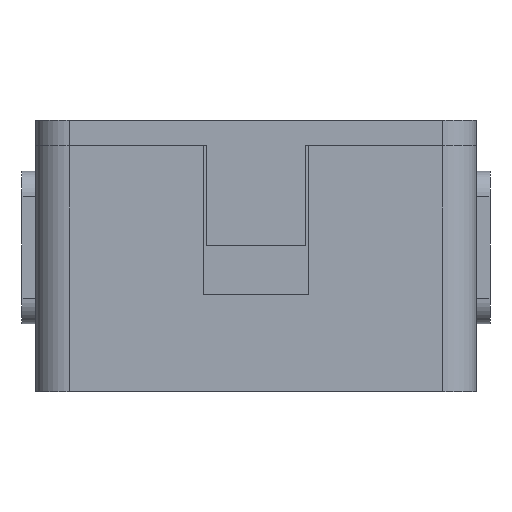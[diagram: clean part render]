
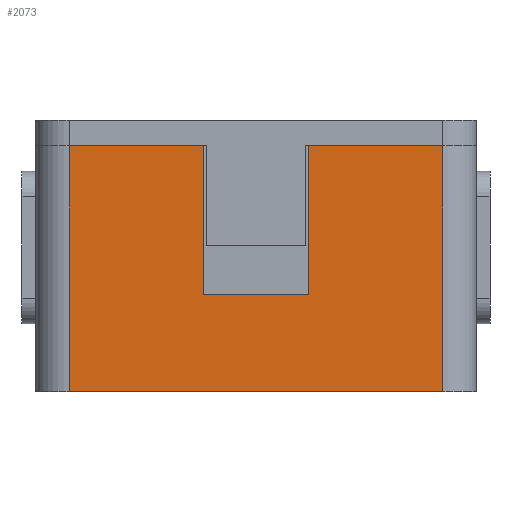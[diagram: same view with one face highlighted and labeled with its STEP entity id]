
A CAD part, left-side view. The second image highlights one B-rep face of the part: STEP entity #2073.
In plain terms, the highlighted planar face has unit normal (-1, 0, 0).
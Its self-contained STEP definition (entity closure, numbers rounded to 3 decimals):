
#82 = PLANE('',#83);
#83 = AXIS2_PLACEMENT_3D('',#84,#85,#86);
#84 = CARTESIAN_POINT('',(0.,0.,0.));
#85 = DIRECTION('',(0.,0.,1.));
#86 = DIRECTION('',(1.,0.,-0.));
#110 = CYLINDRICAL_SURFACE('',#111,4.);
#111 = AXIS2_PLACEMENT_3D('',#112,#113,#114);
#112 = CARTESIAN_POINT('',(-27.,-22.,0.));
#113 = DIRECTION('',(0.,0.,1.));
#114 = DIRECTION('',(0.,-1.,0.));
#138 = PLANE('',#139);
#139 = AXIS2_PLACEMENT_3D('',#140,#141,#142);
#140 = CARTESIAN_POINT('',(0.,0.,29.));
#141 = DIRECTION('',(0.,0.,1.));
#142 = DIRECTION('',(1.,0.,-0.));
#625 = VERTEX_POINT('',#626);
#626 = CARTESIAN_POINT('',(-31.,22.,0.));
#641 = CYLINDRICAL_SURFACE('',#642,4.);
#642 = AXIS2_PLACEMENT_3D('',#643,#644,#645);
#643 = CARTESIAN_POINT('',(-27.,22.,0.));
#644 = DIRECTION('',(0.,0.,1.));
#645 = DIRECTION('',(-0.,1.,0.));
#653 = EDGE_CURVE('',#625,#654,#656,.T.);
#654 = VERTEX_POINT('',#655);
#655 = CARTESIAN_POINT('',(-31.,-22.,0.));
#656 = SURFACE_CURVE('',#657,(#661,#668),.PCURVE_S1.);
#657 = LINE('',#658,#659);
#658 = CARTESIAN_POINT('',(-31.,26.,0.));
#659 = VECTOR('',#660,1.);
#660 = DIRECTION('',(0.,-1.,0.));
#661 = PCURVE('',#82,#662);
#662 = DEFINITIONAL_REPRESENTATION('',(#663),#667);
#663 = LINE('',#664,#665);
#664 = CARTESIAN_POINT('',(-31.,26.));
#665 = VECTOR('',#666,1.);
#666 = DIRECTION('',(0.,-1.));
#667 = ( GEOMETRIC_REPRESENTATION_CONTEXT(2) 
PARAMETRIC_REPRESENTATION_CONTEXT() REPRESENTATION_CONTEXT('2D SPACE',''
  ) );
#668 = PCURVE('',#669,#674);
#669 = PLANE('',#670);
#670 = AXIS2_PLACEMENT_3D('',#671,#672,#673);
#671 = CARTESIAN_POINT('',(-31.,26.,0.));
#672 = DIRECTION('',(1.,0.,-0.));
#673 = DIRECTION('',(0.,-1.,0.));
#674 = DEFINITIONAL_REPRESENTATION('',(#675),#679);
#675 = LINE('',#676,#677);
#676 = CARTESIAN_POINT('',(0.,0.));
#677 = VECTOR('',#678,1.);
#678 = DIRECTION('',(1.,0.));
#679 = ( GEOMETRIC_REPRESENTATION_CONTEXT(2) 
PARAMETRIC_REPRESENTATION_CONTEXT() REPRESENTATION_CONTEXT('2D SPACE',''
  ) );
#711 = EDGE_CURVE('',#654,#712,#714,.T.);
#712 = VERTEX_POINT('',#713);
#713 = CARTESIAN_POINT('',(-31.,-22.,29.));
#714 = SURFACE_CURVE('',#715,(#719,#726),.PCURVE_S1.);
#715 = LINE('',#716,#717);
#716 = CARTESIAN_POINT('',(-31.,-22.,0.));
#717 = VECTOR('',#718,1.);
#718 = DIRECTION('',(0.,0.,1.));
#719 = PCURVE('',#110,#720);
#720 = DEFINITIONAL_REPRESENTATION('',(#721),#725);
#721 = LINE('',#722,#723);
#722 = CARTESIAN_POINT('',(-1.571,0.));
#723 = VECTOR('',#724,1.);
#724 = DIRECTION('',(-0.,1.));
#725 = ( GEOMETRIC_REPRESENTATION_CONTEXT(2) 
PARAMETRIC_REPRESENTATION_CONTEXT() REPRESENTATION_CONTEXT('2D SPACE',''
  ) );
#726 = PCURVE('',#669,#727);
#727 = DEFINITIONAL_REPRESENTATION('',(#728),#732);
#728 = LINE('',#729,#730);
#729 = CARTESIAN_POINT('',(48.,0.));
#730 = VECTOR('',#731,1.);
#731 = DIRECTION('',(0.,-1.));
#732 = ( GEOMETRIC_REPRESENTATION_CONTEXT(2) 
PARAMETRIC_REPRESENTATION_CONTEXT() REPRESENTATION_CONTEXT('2D SPACE',''
  ) );
#926 = VERTEX_POINT('',#927);
#927 = CARTESIAN_POINT('',(-31.,-6.2,29.));
#941 = PLANE('',#942);
#942 = AXIS2_PLACEMENT_3D('',#943,#944,#945);
#943 = CARTESIAN_POINT('',(-34.,-6.2,11.4));
#944 = DIRECTION('',(0.,1.,0.));
#945 = DIRECTION('',(0.,0.,1.));
#952 = EDGE_CURVE('',#926,#712,#953,.T.);
#953 = SURFACE_CURVE('',#954,(#958,#965),.PCURVE_S1.);
#954 = LINE('',#955,#956);
#955 = CARTESIAN_POINT('',(-31.,26.,29.));
#956 = VECTOR('',#957,1.);
#957 = DIRECTION('',(0.,-1.,0.));
#958 = PCURVE('',#138,#959);
#959 = DEFINITIONAL_REPRESENTATION('',(#960),#964);
#960 = LINE('',#961,#962);
#961 = CARTESIAN_POINT('',(-31.,26.));
#962 = VECTOR('',#963,1.);
#963 = DIRECTION('',(0.,-1.));
#964 = ( GEOMETRIC_REPRESENTATION_CONTEXT(2) 
PARAMETRIC_REPRESENTATION_CONTEXT() REPRESENTATION_CONTEXT('2D SPACE',''
  ) );
#965 = PCURVE('',#669,#966);
#966 = DEFINITIONAL_REPRESENTATION('',(#967),#971);
#967 = LINE('',#968,#969);
#968 = CARTESIAN_POINT('',(0.,-29.));
#969 = VECTOR('',#970,1.);
#970 = DIRECTION('',(1.,0.));
#971 = ( GEOMETRIC_REPRESENTATION_CONTEXT(2) 
PARAMETRIC_REPRESENTATION_CONTEXT() REPRESENTATION_CONTEXT('2D SPACE',''
  ) );
#2073 = ADVANCED_FACE('',(#2074),#669,.F.);
#2074 = FACE_BOUND('',#2075,.F.);
#2075 = EDGE_LOOP('',(#2076,#2077,#2100,#2128,#2154,#2180,#2199,#2200));
#2076 = ORIENTED_EDGE('',*,*,#653,.F.);
#2077 = ORIENTED_EDGE('',*,*,#2078,.T.);
#2078 = EDGE_CURVE('',#625,#2079,#2081,.T.);
#2079 = VERTEX_POINT('',#2080);
#2080 = CARTESIAN_POINT('',(-31.,22.,29.));
#2081 = SURFACE_CURVE('',#2082,(#2086,#2093),.PCURVE_S1.);
#2082 = LINE('',#2083,#2084);
#2083 = CARTESIAN_POINT('',(-31.,22.,0.));
#2084 = VECTOR('',#2085,1.);
#2085 = DIRECTION('',(0.,0.,1.));
#2086 = PCURVE('',#669,#2087);
#2087 = DEFINITIONAL_REPRESENTATION('',(#2088),#2092);
#2088 = LINE('',#2089,#2090);
#2089 = CARTESIAN_POINT('',(4.,0.));
#2090 = VECTOR('',#2091,1.);
#2091 = DIRECTION('',(0.,-1.));
#2092 = ( GEOMETRIC_REPRESENTATION_CONTEXT(2) 
PARAMETRIC_REPRESENTATION_CONTEXT() REPRESENTATION_CONTEXT('2D SPACE',''
  ) );
#2093 = PCURVE('',#641,#2094);
#2094 = DEFINITIONAL_REPRESENTATION('',(#2095),#2099);
#2095 = LINE('',#2096,#2097);
#2096 = CARTESIAN_POINT('',(1.571,0.));
#2097 = VECTOR('',#2098,1.);
#2098 = DIRECTION('',(0.,1.));
#2099 = ( GEOMETRIC_REPRESENTATION_CONTEXT(2) 
PARAMETRIC_REPRESENTATION_CONTEXT() REPRESENTATION_CONTEXT('2D SPACE',''
  ) );
#2100 = ORIENTED_EDGE('',*,*,#2101,.T.);
#2101 = EDGE_CURVE('',#2079,#2102,#2104,.T.);
#2102 = VERTEX_POINT('',#2103);
#2103 = CARTESIAN_POINT('',(-31.,6.2,29.));
#2104 = SURFACE_CURVE('',#2105,(#2109,#2116),.PCURVE_S1.);
#2105 = LINE('',#2106,#2107);
#2106 = CARTESIAN_POINT('',(-31.,26.,29.));
#2107 = VECTOR('',#2108,1.);
#2108 = DIRECTION('',(0.,-1.,0.));
#2109 = PCURVE('',#669,#2110);
#2110 = DEFINITIONAL_REPRESENTATION('',(#2111),#2115);
#2111 = LINE('',#2112,#2113);
#2112 = CARTESIAN_POINT('',(0.,-29.));
#2113 = VECTOR('',#2114,1.);
#2114 = DIRECTION('',(1.,0.));
#2115 = ( GEOMETRIC_REPRESENTATION_CONTEXT(2) 
PARAMETRIC_REPRESENTATION_CONTEXT() REPRESENTATION_CONTEXT('2D SPACE',''
  ) );
#2116 = PCURVE('',#2117,#2122);
#2117 = PLANE('',#2118);
#2118 = AXIS2_PLACEMENT_3D('',#2119,#2120,#2121);
#2119 = CARTESIAN_POINT('',(0.,0.,29.));
#2120 = DIRECTION('',(0.,0.,1.));
#2121 = DIRECTION('',(1.,0.,-0.));
#2122 = DEFINITIONAL_REPRESENTATION('',(#2123),#2127);
#2123 = LINE('',#2124,#2125);
#2124 = CARTESIAN_POINT('',(-31.,26.));
#2125 = VECTOR('',#2126,1.);
#2126 = DIRECTION('',(0.,-1.));
#2127 = ( GEOMETRIC_REPRESENTATION_CONTEXT(2) 
PARAMETRIC_REPRESENTATION_CONTEXT() REPRESENTATION_CONTEXT('2D SPACE',''
  ) );
#2128 = ORIENTED_EDGE('',*,*,#2129,.F.);
#2129 = EDGE_CURVE('',#2130,#2102,#2132,.T.);
#2130 = VERTEX_POINT('',#2131);
#2131 = CARTESIAN_POINT('',(-31.,6.2,11.4));
#2132 = SURFACE_CURVE('',#2133,(#2137,#2143),.PCURVE_S1.);
#2133 = LINE('',#2134,#2135);
#2134 = CARTESIAN_POINT('',(-31.,6.2,5.7));
#2135 = VECTOR('',#2136,1.);
#2136 = DIRECTION('',(0.,-0.,1.));
#2137 = PCURVE('',#669,#2138);
#2138 = DEFINITIONAL_REPRESENTATION('',(#2139),#2142);
#2139 = B_SPLINE_CURVE_WITH_KNOTS('',1,(#2140,#2141),.UNSPECIFIED.,.F.,
  .F.,(2,2),(5.7,23.3),.PIECEWISE_BEZIER_KNOTS.);
#2140 = CARTESIAN_POINT('',(19.8,-11.4));
#2141 = CARTESIAN_POINT('',(19.8,-29.));
#2142 = ( GEOMETRIC_REPRESENTATION_CONTEXT(2) 
PARAMETRIC_REPRESENTATION_CONTEXT() REPRESENTATION_CONTEXT('2D SPACE',''
  ) );
#2143 = PCURVE('',#2144,#2149);
#2144 = PLANE('',#2145);
#2145 = AXIS2_PLACEMENT_3D('',#2146,#2147,#2148);
#2146 = CARTESIAN_POINT('',(-34.,6.2,11.4));
#2147 = DIRECTION('',(0.,1.,0.));
#2148 = DIRECTION('',(0.,0.,1.));
#2149 = DEFINITIONAL_REPRESENTATION('',(#2150),#2153);
#2150 = B_SPLINE_CURVE_WITH_KNOTS('',1,(#2151,#2152),.UNSPECIFIED.,.F.,
  .F.,(2,2),(5.7,23.3),.PIECEWISE_BEZIER_KNOTS.);
#2151 = CARTESIAN_POINT('',(0.,3.));
#2152 = CARTESIAN_POINT('',(17.6,3.));
#2153 = ( GEOMETRIC_REPRESENTATION_CONTEXT(2) 
PARAMETRIC_REPRESENTATION_CONTEXT() REPRESENTATION_CONTEXT('2D SPACE',''
  ) );
#2154 = ORIENTED_EDGE('',*,*,#2155,.T.);
#2155 = EDGE_CURVE('',#2130,#2156,#2158,.T.);
#2156 = VERTEX_POINT('',#2157);
#2157 = CARTESIAN_POINT('',(-31.,-6.2,11.4));
#2158 = SURFACE_CURVE('',#2159,(#2163,#2169),.PCURVE_S1.);
#2159 = LINE('',#2160,#2161);
#2160 = CARTESIAN_POINT('',(-31.,9.9,11.4));
#2161 = VECTOR('',#2162,1.);
#2162 = DIRECTION('',(0.,-1.,0.));
#2163 = PCURVE('',#669,#2164);
#2164 = DEFINITIONAL_REPRESENTATION('',(#2165),#2168);
#2165 = B_SPLINE_CURVE_WITH_KNOTS('',1,(#2166,#2167),.UNSPECIFIED.,.F.,
  .F.,(2,2),(3.7,16.1),.PIECEWISE_BEZIER_KNOTS.);
#2166 = CARTESIAN_POINT('',(19.8,-11.4));
#2167 = CARTESIAN_POINT('',(32.2,-11.4));
#2168 = ( GEOMETRIC_REPRESENTATION_CONTEXT(2) 
PARAMETRIC_REPRESENTATION_CONTEXT() REPRESENTATION_CONTEXT('2D SPACE',''
  ) );
#2169 = PCURVE('',#2170,#2175);
#2170 = PLANE('',#2171);
#2171 = AXIS2_PLACEMENT_3D('',#2172,#2173,#2174);
#2172 = CARTESIAN_POINT('',(-34.,-6.2,11.4));
#2173 = DIRECTION('',(0.,0.,1.));
#2174 = DIRECTION('',(1.,0.,0.));
#2175 = DEFINITIONAL_REPRESENTATION('',(#2176),#2179);
#2176 = B_SPLINE_CURVE_WITH_KNOTS('',1,(#2177,#2178),.UNSPECIFIED.,.F.,
  .F.,(2,2),(3.7,16.1),.PIECEWISE_BEZIER_KNOTS.);
#2177 = CARTESIAN_POINT('',(3.,12.4));
#2178 = CARTESIAN_POINT('',(3.,0.));
#2179 = ( GEOMETRIC_REPRESENTATION_CONTEXT(2) 
PARAMETRIC_REPRESENTATION_CONTEXT() REPRESENTATION_CONTEXT('2D SPACE',''
  ) );
#2180 = ORIENTED_EDGE('',*,*,#2181,.T.);
#2181 = EDGE_CURVE('',#2156,#926,#2182,.T.);
#2182 = SURFACE_CURVE('',#2183,(#2187,#2193),.PCURVE_S1.);
#2183 = LINE('',#2184,#2185);
#2184 = CARTESIAN_POINT('',(-31.,-6.2,5.7));
#2185 = VECTOR('',#2186,1.);
#2186 = DIRECTION('',(0.,-0.,1.));
#2187 = PCURVE('',#669,#2188);
#2188 = DEFINITIONAL_REPRESENTATION('',(#2189),#2192);
#2189 = B_SPLINE_CURVE_WITH_KNOTS('',1,(#2190,#2191),.UNSPECIFIED.,.F.,
  .F.,(2,2),(5.7,23.3),.PIECEWISE_BEZIER_KNOTS.);
#2190 = CARTESIAN_POINT('',(32.2,-11.4));
#2191 = CARTESIAN_POINT('',(32.2,-29.));
#2192 = ( GEOMETRIC_REPRESENTATION_CONTEXT(2) 
PARAMETRIC_REPRESENTATION_CONTEXT() REPRESENTATION_CONTEXT('2D SPACE',''
  ) );
#2193 = PCURVE('',#941,#2194);
#2194 = DEFINITIONAL_REPRESENTATION('',(#2195),#2198);
#2195 = B_SPLINE_CURVE_WITH_KNOTS('',1,(#2196,#2197),.UNSPECIFIED.,.F.,
  .F.,(2,2),(5.7,23.3),.PIECEWISE_BEZIER_KNOTS.);
#2196 = CARTESIAN_POINT('',(0.,3.));
#2197 = CARTESIAN_POINT('',(17.6,3.));
#2198 = ( GEOMETRIC_REPRESENTATION_CONTEXT(2) 
PARAMETRIC_REPRESENTATION_CONTEXT() REPRESENTATION_CONTEXT('2D SPACE',''
  ) );
#2199 = ORIENTED_EDGE('',*,*,#952,.T.);
#2200 = ORIENTED_EDGE('',*,*,#711,.F.);
